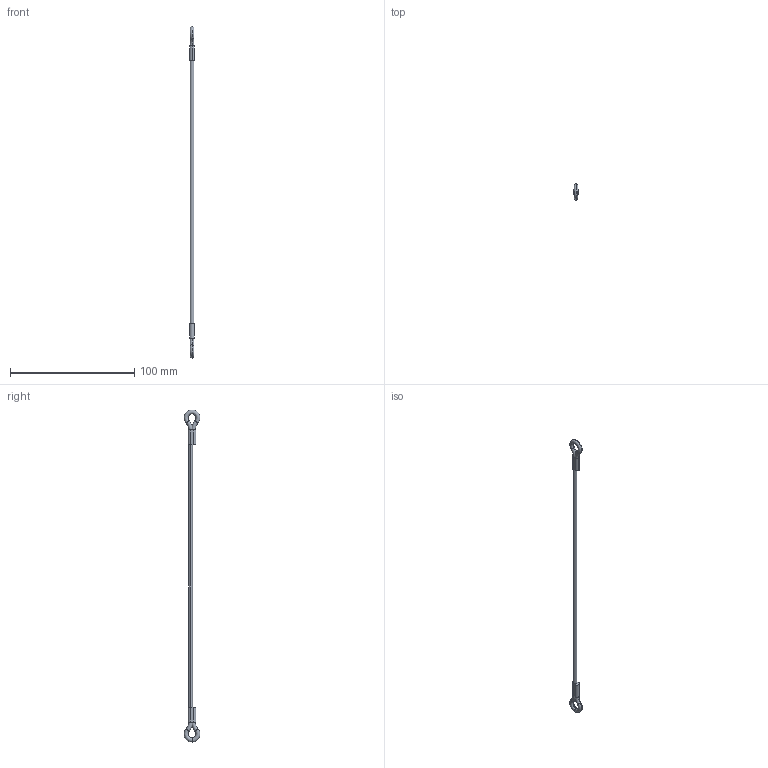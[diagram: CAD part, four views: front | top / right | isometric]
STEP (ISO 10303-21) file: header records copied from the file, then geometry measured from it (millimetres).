
FILE_DESCRIPTION (( 'STEP AP203' ), '1' );
FILE_NAME ('LA1065.I06-254B1.step', '2026-03-23T15:44:38', ( '' ), ( '' ), 'SwSTEP 2.0', 'SolidWorks 2019', '' );
FILE_SCHEMA (( 'CONFIG_CONTROL_DESIGN' ));
Length unit declared in the file: millimetre
Products named in the file (1): LA1065.I06-254B1
Bounding box: 3.99 x 12.77 x 266.76 mm (x, y, z)
Volume: 2759.4 mm3; surface area: 3253.5 mm2
Topology: 1 solids, 1 shells, 30 faces, 72 edges, 44 vertices
Faces by surface type: torus 14, cylinder 8, plane 8
Entity records: 1025 total; most frequent: CARTESIAN_POINT 207, DIRECTION 178, ORIENTED_EDGE 144, AXIS2_PLACEMENT_3D 79, EDGE_CURVE 72, CIRCLE 48, VERTEX_POINT 44, EDGE_LOOP 34
